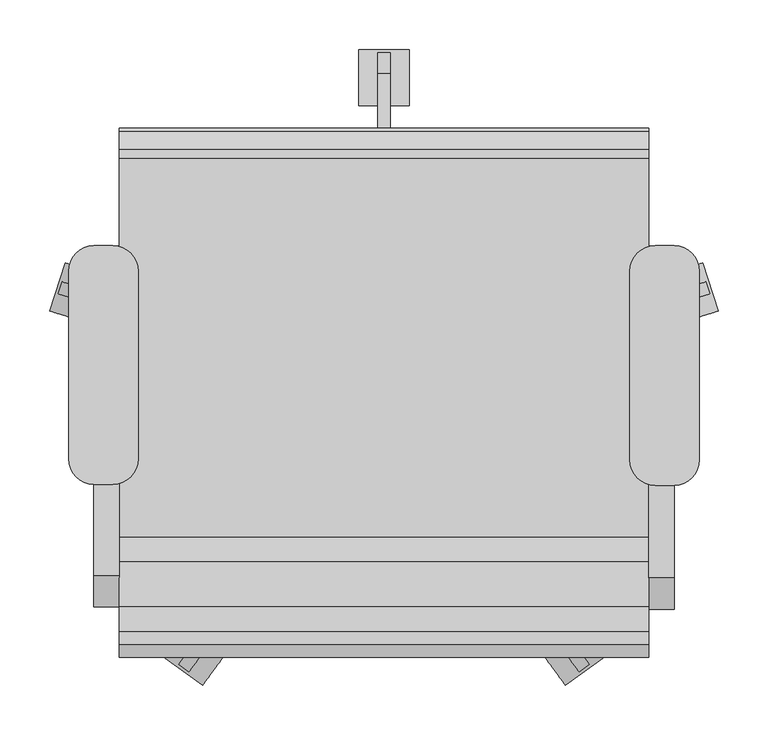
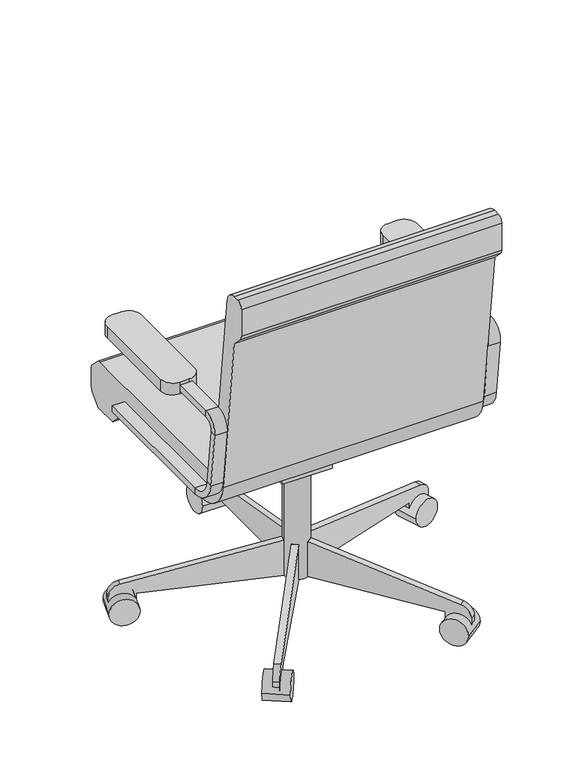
"""IFC4 building model written with IfcOpenShell, lengths in millimetres: furniture geometry, Siège - 03 : Siège - 03."""

from ifc_helpers import new_model, si_unit, point, frame, frame_2d, origin, place, context, project, spatial, polyline, circle_curve, trimmed, segment, composite_curve, outline, extrude, source, transform, mapped, element, save
from ifc_brep_helpers import plane_surface, cylinder_surface, revolved_surface, advanced_brep


def furniture_d3363bb0(model_context):
    return source(origin(), model_context, "Body", "SolidModel", [
        extrude(outline(composite_curve([segment(polyline([(433.0908197, -74.2028048), (414.0408197, -74.2028048)]), True, "CONTINUOUS"), segment(trimmed(circle_curve(frame_2d((414.0408197, -48.8028048)), 25.4), [point((414.0408197, -74.2028048))], [point((388.6408197, -48.8028048))], False, "CARTESIAN"), True, "CONTINUOUS"), segment(polyline([(388.6408197, -48.8028048), (388.6408197, 141.6319091)]), True, "CONTINUOUS"), segment(trimmed(circle_curve(frame_2d((414.0408197, 141.6319091)), 25.4), [point((388.6408197, 141.6319091))], [point((414.0408197, 167.0319091))], False, "CARTESIAN"), True, "CONTINUOUS"), segment(polyline([(414.0408197, 167.0319091), (433.0908197, 167.0319091)]), True, "CONTINUOUS"), segment(trimmed(circle_curve(frame_2d((433.0908197, 141.6319091)), 25.4), [point((433.0908197, 167.0319091))], [point((458.4908197, 141.6319091))], False, "CARTESIAN"), True, "CONTINUOUS"), segment(polyline([(458.4908197, 141.6319091), (458.4908197, -48.8028048)]), True, "CONTINUOUS"), segment(trimmed(circle_curve(frame_2d((433.0908197, -48.8028048)), 25.4), [point((458.4908197, -48.8028048))], [point((433.0908197, -74.2028048))], False, "CARTESIAN"), True, "CONTINUOUS")], self_intersect=False)), frame((0.0, 0.0, 596.9), z_axis=(0.0, 0.0, 1.0), x_axis=(1.0, 0.0, 0.0)), (0.0, 0.0, 1.0), 25.4),
        extrude(outline(composite_curve([segment(polyline([(-132.0591803, -73.1575984), (-151.1091803, -73.1575984)]), True, "CONTINUOUS"), segment(trimmed(circle_curve(frame_2d((-151.1091803, -47.7575984)), 25.4), [point((-151.1091803, -73.1575984))], [point((-176.5091803, -47.7575984))], False, "CARTESIAN"), True, "CONTINUOUS"), segment(polyline([(-176.5091803, -47.7575984), (-176.5091803, 141.6319091)]), True, "CONTINUOUS"), segment(trimmed(circle_curve(frame_2d((-151.1091803, 141.6319091)), 25.4), [point((-176.5091803, 141.6319091))], [point((-151.1091803, 167.0319091))], False, "CARTESIAN"), True, "CONTINUOUS"), segment(polyline([(-151.1091803, 167.0319091), (-132.0591803, 167.0319091)]), True, "CONTINUOUS"), segment(trimmed(circle_curve(frame_2d((-132.0591803, 141.6319091)), 25.4), [point((-132.0591803, 167.0319091))], [point((-106.6591803, 141.6319091))], False, "CARTESIAN"), True, "CONTINUOUS"), segment(polyline([(-106.6591803, 141.6319091), (-106.6591803, -47.7575984)]), True, "CONTINUOUS"), segment(trimmed(circle_curve(frame_2d((-132.0591803, -47.7575984)), 25.4), [point((-106.6591803, -47.7575984))], [point((-132.0591803, -73.1575984))], False, "CARTESIAN"), True, "CONTINUOUS")], self_intersect=False)), frame((0.0, 0.0, 596.9), z_axis=(0.0, 0.0, 1.0), x_axis=(1.0, 0.0, 0.0)), (0.0, 0.0, 1.0), 25.4),
        advanced_brep(
        [(-151.1091803, 167.0319091, 412.75), (-151.1091803, 167.0319091, 425.45), (-125.7091803, 167.0319091, 425.45), (-125.7091803, 167.0319091, 412.75), (-151.1091803, -126.2388651, 412.75), (-151.1091803, -126.2388651, 425.45), (-125.7091803, -126.2388651, 425.45), (-125.7091803, -126.2388651, 412.75), (-151.1091803, -170.3844094, 464.7064065), (-151.1091803, -182.9974221, 463.2225227), (-125.7091803, -170.3844094, 464.7064065), (-125.7091803, -182.9974221, 463.2225227), (-151.1091803, -196.7936301, 580.4902904), (-151.1091803, -184.1806174, 581.9741742), (-125.7091803, -184.1806174, 581.9741742), (-125.7091803, -196.7936301, 580.4902904), (-151.1091803, -165.2610984, 603.25), (-151.1091803, -165.2610984, 615.95), (-125.7091803, -165.2610984, 603.25), (-125.7091803, -165.2610984, 615.95), (-151.1091803, 18.9459016, 615.95), (-125.7091803, 18.9459016, 615.95), (-125.7091803, 18.9459016, 603.25), (-151.1091803, 18.9459016, 603.25)],
        [
            (0, 1),
            (1, 2),
            (2, 3),
            (3, 0),
            (0, 4),
            (4, 5),
            (5, 1),
            (5, 6),
            (6, 2),
            (6, 7),
            (7, 3),
            (7, 4),
            (8, 5, circle_curve(frame((-151.1091803, -126.2388651, 469.9), z_axis=(1.0, 0.0, 0.0), x_axis=(0.0, 0.0, -1.0)), 44.45)),
            (4, 9, circle_curve(frame((-151.1091803, -126.2388651, 469.9), z_axis=(-1.0, 0.0, 0.0), x_axis=(0.0, 0.0, -1.0)), 57.15)),
            (9, 8),
            (10, 6, circle_curve(frame((-125.7091803, -126.2388651, 469.9), z_axis=(1.0, 0.0, 0.0), x_axis=(0.0, 0.0, -1.0)), 44.45)),
            (8, 10),
            (11, 7, circle_curve(frame((-125.7091803, -126.2388651, 469.9), z_axis=(1.0, 0.0, 0.0), x_axis=(0.0, 0.0, -1.0)), 57.15)),
            (10, 11),
            (11, 9),
            (9, 12),
            (12, 13),
            (13, 8),
            (13, 14),
            (14, 10),
            (14, 15),
            (15, 11),
            (15, 12),
            (16, 13, circle_curve(frame((-151.1091803, -165.2610984, 584.2), z_axis=(1.0, 0.0, 0.0), x_axis=(0.0, -0.9931506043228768, -0.11684124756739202)), 19.05)),
            (12, 17, circle_curve(frame((-151.1091803, -165.2610984, 584.2), z_axis=(-1.0, 0.0, 0.0), x_axis=(0.0, -0.9931506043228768, -0.11684124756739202)), 31.75)),
            (17, 16),
            (18, 14, circle_curve(frame((-125.7091803, -165.2610984, 584.2), z_axis=(1.0, 0.0, 0.0), x_axis=(0.0, -0.9931506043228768, -0.11684124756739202)), 19.05)),
            (16, 18),
            (19, 15, circle_curve(frame((-125.7091803, -165.2610984, 584.2), z_axis=(1.0, 0.0, 0.0), x_axis=(0.0, -0.9931506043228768, -0.11684124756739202)), 31.75)),
            (18, 19),
            (19, 17),
            (20, 21),
            (21, 22),
            (22, 23),
            (23, 20),
            (17, 20),
            (23, 16),
            (22, 18),
            (21, 19),
        ],
        [
            plane_surface(frame((-152.608212, 167.0319091, 419.1), z_axis=(0.0, 1.0, 0.0), x_axis=(0.0, 0.0, -1.0))),
            plane_surface(frame((-151.1091803, 167.0319091, 412.75), z_axis=(-1.0, 0.0, 0.0), x_axis=(0.0, -1.0, 0.0))),
            plane_surface(frame((-151.1091803, 167.0319091, 425.45), z_axis=(0.0, 0.0, 1.0), x_axis=(0.0, -1.0, 0.0))),
            plane_surface(frame((-125.7091803, 167.0319091, 425.45), z_axis=(1.0, 0.0, 0.0), x_axis=(0.0, -1.0, 0.0))),
            plane_surface(frame((-125.7091803, 167.0319091, 412.75), z_axis=(0.0, 0.0, -1.0), x_axis=(0.0, -1.0, 0.0))),
            plane_surface(frame((-151.1091803, -126.2388651, 469.9), z_axis=(-1.0, 0.0, 0.0), x_axis=(0.0, 0.0, -1.0))),
            revolved_surface(polyline([(-151.1091803, -126.2388651, 425.45), (-125.7091803, -126.2388651, 425.45)]), (-138.4091803, -126.2388651, 469.9), (-1.0, 0.0, 0.0)),
            plane_surface(frame((-125.7091803, -126.2388651, 469.9), z_axis=(1.0, 0.0, 0.0), x_axis=(0.0, 0.0, -1.0))),
            cylinder_surface(frame((-138.4091803, -126.2388651, 469.9), z_axis=(-1.0, 0.0, 0.0), x_axis=(0.0, 0.0, -1.0)), 57.15),
            plane_surface(frame((-151.1091803, -182.9974221, 463.2225227), z_axis=(-1.0, 0.0, 0.0), x_axis=(0.0, -0.1168412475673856, 0.9931506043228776))),
            plane_surface(frame((-151.1091803, -170.3844094, 464.7064065), z_axis=(0.0, 0.9931506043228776, 0.1168412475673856), x_axis=(0.0, -0.1168412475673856, 0.9931506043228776))),
            plane_surface(frame((-125.7091803, -170.3844094, 464.7064065), z_axis=(1.0, 0.0, 0.0), x_axis=(0.0, -0.1168412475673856, 0.9931506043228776))),
            plane_surface(frame((-125.7091803, -182.9974221, 463.2225227), z_axis=(0.0, -0.9931506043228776, -0.1168412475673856), x_axis=(0.0, -0.1168412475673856, 0.9931506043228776))),
            plane_surface(frame((-151.1091803, -165.2610984, 584.2), z_axis=(-1.0, 0.0, 0.0), x_axis=(0.0, -0.9931506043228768, -0.11684124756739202))),
            revolved_surface(polyline([(-151.1091803, -184.1806174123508, 581.9741742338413), (-125.7091803, -184.1806174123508, 581.9741742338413)]), (-138.4091803, -165.2610984, 584.2), (-1.0, 0.0, 0.0)),
            plane_surface(frame((-125.7091803, -165.2610984, 584.2), z_axis=(1.0, 0.0, 0.0), x_axis=(0.0, -0.9931506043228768, -0.11684124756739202))),
            cylinder_surface(frame((-138.4091803, -165.2610984, 584.2), z_axis=(-1.0, 0.0, 0.0), x_axis=(0.0, -0.9931506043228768, -0.11684124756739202)), 31.75),
            plane_surface(frame((-152.608212, 18.9459016, 609.6), z_axis=(0.0, 1.0, 0.0), x_axis=(0.0, 0.0, 1.0))),
            plane_surface(frame((-151.1091803, -165.2610984, 615.95), z_axis=(-1.0, 0.0, 0.0), x_axis=(0.0, 1.0, 0.0))),
            plane_surface(frame((-151.1091803, -165.2610984, 603.25), z_axis=(0.0, 0.0, -1.0), x_axis=(0.0, 1.0, 0.0))),
            plane_surface(frame((-125.7091803, -165.2610984, 603.25), z_axis=(1.0, 0.0, 0.0), x_axis=(0.0, 1.0, 0.0))),
            plane_surface(frame((-125.7091803, -165.2610984, 615.95), z_axis=(0.0, 0.0, 1.0), x_axis=(0.0, 1.0, 0.0))),
        ],
        [
            (0, [[1, 2, 3, 4]]),
            (1, [[-1, 5, 6, 7]]),
            (2, [[-2, -7, 8, 9]]),
            (3, [[-3, -9, 10, 11]]),
            (4, [[-4, -11, 12, -5]]),
            (5, [[13, -6, 14, 15]]),
            (6, [[16, -8, -13, 17]]),
            (7, [[18, -10, -16, 19]]),
            (8, [[-14, -12, -18, 20]]),
            (9, [[-15, 21, 22, 23]]),
            (10, [[-17, -23, 24, 25]]),
            (11, [[-19, -25, 26, 27]]),
            (12, [[-20, -27, 28, -21]]),
            (13, [[29, -22, 30, 31]]),
            (14, [[32, -24, -29, 33]]),
            (15, [[34, -26, -32, 35]]),
            (16, [[-30, -28, -34, 36]]),
            (17, [[37, 38, 39, 40]]),
            (18, [[-31, 41, -40, 42]]),
            (19, [[-33, -42, -39, 43]]),
            (20, [[-35, -43, -38, 44]]),
            (21, [[-36, -44, -37, -41]]),
        ],
    ),
        advanced_brep(
        [(433.0908197, 167.0319091, 425.45), (433.0908197, 167.0319091, 412.75), (407.6908197, 167.0319091, 412.75), (407.6908197, 167.0319091, 425.45), (433.0908197, -128.329278, 425.45), (433.0908197, -128.329278, 412.75), (407.6908197, -128.329278, 412.75), (407.6908197, -128.329278, 425.45), (433.0908197, -185.0878351, 463.2225227), (433.0908197, -172.4748224, 464.7064065), (407.6908197, -185.0878351, 463.2225227), (407.6908197, -172.4748224, 464.7064065), (433.0908197, -186.2710303, 581.9741742), (433.0908197, -198.884043, 580.4902904), (407.6908197, -198.884043, 580.4902904), (407.6908197, -186.2710303, 581.9741742), (433.0908197, -167.3515113, 615.95), (433.0908197, -167.3515113, 603.25), (407.6908197, -167.3515113, 615.95), (407.6908197, -167.3515113, 603.25), (433.0908197, 18.9459016, 603.25), (407.6908197, 18.9459016, 603.25), (407.6908197, 18.9459016, 615.95), (433.0908197, 18.9459016, 615.95)],
        [
            (0, 1),
            (1, 2),
            (2, 3),
            (3, 0),
            (0, 4),
            (4, 5),
            (5, 1),
            (5, 6),
            (6, 2),
            (6, 7),
            (7, 3),
            (7, 4),
            (8, 5, circle_curve(frame((433.0908197, -128.329278, 469.9), z_axis=(1.0, 0.0, 0.0), x_axis=(0.0, 0.0, -1.0)), 57.15)),
            (4, 9, circle_curve(frame((433.0908197, -128.329278, 469.9), z_axis=(-1.0, 0.0, 0.0), x_axis=(0.0, 0.0, -1.0)), 44.45)),
            (9, 8),
            (10, 6, circle_curve(frame((407.6908197, -128.329278, 469.9), z_axis=(1.0, 0.0, 0.0), x_axis=(0.0, 0.0, -1.0)), 57.15)),
            (8, 10),
            (11, 7, circle_curve(frame((407.6908197, -128.329278, 469.9), z_axis=(1.0, 0.0, 0.0), x_axis=(0.0, 0.0, -1.0)), 44.45)),
            (10, 11),
            (11, 9),
            (9, 12),
            (12, 13),
            (13, 8),
            (13, 14),
            (14, 10),
            (14, 15),
            (15, 11),
            (15, 12),
            (16, 13, circle_curve(frame((433.0908197, -167.3515113, 584.2), z_axis=(1.0, 0.0, 0.0), x_axis=(0.0, -0.9931506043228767, -0.1168412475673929)), 31.75)),
            (12, 17, circle_curve(frame((433.0908197, -167.3515113, 584.2), z_axis=(-1.0, 0.0, 0.0), x_axis=(0.0, -0.9931506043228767, -0.1168412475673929)), 19.05)),
            (17, 16),
            (18, 14, circle_curve(frame((407.6908197, -167.3515113, 584.2), z_axis=(1.0, 0.0, 0.0), x_axis=(0.0, -0.9931506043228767, -0.1168412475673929)), 31.75)),
            (16, 18),
            (19, 15, circle_curve(frame((407.6908197, -167.3515113, 584.2), z_axis=(1.0, 0.0, 0.0), x_axis=(0.0, -0.9931506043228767, -0.1168412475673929)), 19.05)),
            (18, 19),
            (19, 17),
            (20, 21),
            (21, 22),
            (22, 23),
            (23, 20),
            (17, 20),
            (23, 16),
            (22, 18),
            (21, 19),
        ],
        [
            plane_surface(frame((406.191788, 167.0319091, 419.1), z_axis=(0.0, 1.0, 0.0), x_axis=(0.0, 0.0, -1.0))),
            plane_surface(frame((433.0908197, 167.0319091, 425.45), z_axis=(1.0, 0.0, 0.0), x_axis=(0.0, -1.0, 0.0))),
            plane_surface(frame((433.0908197, 167.0319091, 412.75), z_axis=(0.0, 0.0, -1.0), x_axis=(0.0, -1.0, 0.0))),
            plane_surface(frame((407.6908197, 167.0319091, 412.75), z_axis=(-1.0, 0.0, 0.0), x_axis=(0.0, -1.0, 0.0))),
            plane_surface(frame((407.6908197, 167.0319091, 425.45), z_axis=(0.0, 0.0, 1.0), x_axis=(0.0, -1.0, 0.0))),
            plane_surface(frame((433.0908197, -128.329278, 469.9), z_axis=(1.0, 0.0, 0.0), x_axis=(0.0, 0.0, -1.0))),
            cylinder_surface(frame((420.3908197, -128.329278, 469.9), z_axis=(-1.0, 0.0, 0.0), x_axis=(0.0, 0.0, -1.0)), 57.15),
            plane_surface(frame((407.6908197, -128.329278, 469.9), z_axis=(-1.0, 0.0, 0.0), x_axis=(0.0, 0.0, -1.0))),
            revolved_surface(polyline([(407.6908197, -128.329278, 425.45), (433.0908197, -128.329278, 425.45)]), (420.3908197, -128.329278, 469.9), (-1.0, 0.0, 0.0)),
            plane_surface(frame((433.0908197, -172.4748224, 464.7064065), z_axis=(1.0, 0.0, 0.0), x_axis=(0.0, -0.11684124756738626, 0.9931506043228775))),
            plane_surface(frame((433.0908197, -185.0878351, 463.2225227), z_axis=(0.0, -0.9931506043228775, -0.11684124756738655), x_axis=(0.0, -0.11684124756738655, 0.9931506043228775))),
            plane_surface(frame((407.6908197, -185.0878351, 463.2225227), z_axis=(-1.0, 0.0, 0.0), x_axis=(0.0, -0.11684124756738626, 0.9931506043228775))),
            plane_surface(frame((407.6908197, -172.4748224, 464.7064065), z_axis=(0.0, 0.9931506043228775, 0.11684124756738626), x_axis=(0.0, -0.11684124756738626, 0.9931506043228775))),
            plane_surface(frame((433.0908197, -167.3515113, 584.2), z_axis=(1.0, 0.0, 0.0), x_axis=(0.0, -0.9931506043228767, -0.1168412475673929))),
            cylinder_surface(frame((420.3908197, -167.3515113, 584.2), z_axis=(-1.0, 0.0, 0.0), x_axis=(0.0, -0.9931506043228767, -0.1168412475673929)), 31.75),
            plane_surface(frame((407.6908197, -167.3515113, 584.2), z_axis=(-1.0, 0.0, 0.0), x_axis=(0.0, -0.9931506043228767, -0.1168412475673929))),
            revolved_surface(polyline([(407.6908197, -186.2710303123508, 581.9741742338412), (433.0908197, -186.2710303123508, 581.9741742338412)]), (420.3908197, -167.3515113, 584.2), (-1.0, 0.0, 0.0)),
            plane_surface(frame((406.191788, 18.9459016, 609.6), z_axis=(0.0, 1.0, 0.0), x_axis=(0.0, 0.0, 1.0))),
            plane_surface(frame((433.0908197, -167.3515113, 603.25), z_axis=(1.0, 0.0, 0.0), x_axis=(0.0, 1.0, 0.0))),
            plane_surface(frame((433.0908197, -167.3515113, 615.95), z_axis=(0.0, 0.0, 1.0), x_axis=(0.0, 1.0, 0.0))),
            plane_surface(frame((407.6908197, -167.3515113, 615.95), z_axis=(-1.0, 0.0, 0.0), x_axis=(0.0, 1.0, 0.0))),
            plane_surface(frame((407.6908197, -167.3515113, 603.25), z_axis=(0.0, 0.0, -1.0), x_axis=(0.0, 1.0, 0.0))),
        ],
        [
            (0, [[1, 2, 3, 4]]),
            (1, [[-1, 5, 6, 7]]),
            (2, [[-2, -7, 8, 9]]),
            (3, [[-3, -9, 10, 11]]),
            (4, [[-4, -11, 12, -5]]),
            (5, [[13, -6, 14, 15]]),
            (6, [[16, -8, -13, 17]]),
            (7, [[18, -10, -16, 19]]),
            (8, [[-14, -12, -18, 20]]),
            (9, [[-15, 21, 22, 23]]),
            (10, [[-17, -23, 24, 25]]),
            (11, [[-19, -25, 26, 27]]),
            (12, [[-20, -27, 28, -21]]),
            (13, [[29, -22, 30, 31]]),
            (14, [[32, -24, -29, 33]]),
            (15, [[34, -26, -32, 35]]),
            (16, [[-30, -28, -34, 36]]),
            (17, [[37, 38, 39, 40]]),
            (18, [[-31, 41, -40, 42]]),
            (19, [[-33, -42, -39, 43]]),
            (20, [[-35, -43, -38, 44]]),
            (21, [[-36, -44, -37, -41]]),
        ],
    ),
        extrude(outline(composite_curve([segment(trimmed(circle_curve(frame_2d((0.0, -28.2002727)), 28.2002727), [point((0.0, -56.4005455))], [point((0.0, 0.0))], False, "CARTESIAN"), True, "CONTINUOUS"), segment(trimmed(circle_curve(frame_2d((0.0, -28.2002727)), 28.2002727), [point((0.0, 0.0))], [point((0.0, -56.4005455))], False, "CARTESIAN"), True, "CONTINUOUS")], self_intersect=False)), frame((477.6203484, 101.6163254, 28.1835944), z_axis=(-0.3090169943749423, 0.9510565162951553, 0.0), x_axis=(0.0, 0.0, 1.0)), (0.0, 0.0, 1.0), 50.8),
        extrude(outline(composite_curve([segment(polyline([(-25.4, 0.0), (0.0, 0.0), (0.0, -50.8), (-24.303053, -50.8)]), True, "CONTINUOUS"), segment(trimmed(circle_curve(frame_2d((-24.303053, -25.4)), 25.4), [point((-24.303053, -50.8))], [point((-49.3171699, -29.8106637))], False, "CARTESIAN"), True, "CONTINUOUS"), segment(polyline([(-49.3171699, -29.8106637), (-101.6, 266.7), (-101.6, 292.1), (-25.4, 292.1), (-25.4, 0.0)]), True, "CONTINUOUS")], self_intersect=False)), frame((420.756686, 103.1705568, 28.1835944), z_axis=(-0.3090169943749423, 0.9510565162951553, 0.0), x_axis=(0.0, 0.0, -1.0)), (0.0, 0.0, 1.0), 12.7),
        extrude(outline(composite_curve([segment(trimmed(circle_curve(frame_2d((0.0, -28.2002727)), 28.2002727), [point((0.0, -56.4005455))], [point((0.0, 0.0))], False, "CARTESIAN"), True, "CONTINUOUS"), segment(trimmed(circle_curve(frame_2d((0.0, -28.2002727)), 28.2002727), [point((0.0, 0.0))], [point((0.0, -56.4005455))], False, "CARTESIAN"), True, "CONTINUOUS")], self_intersect=False)), frame((323.63931, -275.6612394, 28.1835944), z_axis=(0.8090169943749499, 0.5877852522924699, 0.0), x_axis=(0.0, 0.0, 1.0)), (0.0, 0.0, 1.0), 50.8),
        extrude(outline(composite_curve([segment(polyline([(-25.4, 0.0), (0.0, 0.0), (0.0, -50.8), (-24.303053, -50.8)]), True, "CONTINUOUS"), segment(trimmed(circle_curve(frame_2d((-24.303053, -25.3999999)), 25.4), [point((-24.303053, -50.8))], [point((-49.3171699, -29.8106636))], False, "CARTESIAN"), True, "CONTINUOUS"), segment(polyline([(-49.3171699, -29.8106636), (-101.6, 266.7), (-101.6, 292.1), (-25.4, 292.1), (-25.4, 0.0)]), True, "CONTINUOUS")], self_intersect=False)), frame((307.545634, -221.1003988, 28.1835944), z_axis=(0.8090169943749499, 0.5877852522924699, 0.0), x_axis=(0.0, 0.0, -1.0)), (0.0, 0.0, 1.0), 12.7),
        extrude(outline(composite_curve([segment(trimmed(circle_curve(frame_2d((0.0, -28.2002727)), 28.2002727), [point((0.0, -56.4005455))], [point((0.0, 0.0))], False, "CARTESIAN"), True, "CONTINUOUS"), segment(trimmed(circle_curve(frame_2d((0.0, -28.2002727)), 28.2002727), [point((0.0, 0.0))], [point((0.0, -56.4005455))], False, "CARTESIAN"), True, "CONTINUOUS")], self_intersect=False)), frame((-41.6576707, -275.6612394, 28.1835944), z_axis=(-0.8090169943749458, 0.5877852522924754, 0.0), x_axis=(0.0, 0.0, -1.0)), (0.0, 0.0, 1.0), 50.8),
        extrude(outline(composite_curve([segment(polyline([(25.4, 0.0), (25.4, 292.1), (101.6, 292.1), (101.6, 266.7), (49.3171699, -29.8106637)]), True, "CONTINUOUS"), segment(trimmed(circle_curve(frame_2d((24.303053, -25.3999999)), 25.4), [point((49.3171699, -29.8106637))], [point((24.303053, -50.8))], False, "CARTESIAN"), True, "CONTINUOUS"), segment(polyline([(24.303053, -50.8), (0.0, -50.8), (0.0, 0.0), (25.4, 0.0)]), True, "CONTINUOUS")], self_intersect=False)), frame((-25.5639946, -221.1003988, 28.1835944), z_axis=(-0.8090169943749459, 0.5877852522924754, 0.0), x_axis=(0.0, 0.0, 1.0)), (0.0, 0.0, 1.0), 12.7),
        extrude(outline(composite_curve([segment(trimmed(circle_curve(frame_2d((0.0, -28.2002727)), 28.2002727), [point((0.0, -56.4005454))], [point((0.0, 0.0))], False, "CARTESIAN"), True, "CONTINUOUS"), segment(trimmed(circle_curve(frame_2d((0.0, -28.2002727)), 28.2002727), [point((0.0, 0.0))], [point((0.0, -56.4005454))], False, "CARTESIAN"), True, "CONTINUOUS")], self_intersect=False)), frame((-195.638709, 101.6163254, 28.1835944), z_axis=(0.3090169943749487, 0.9510565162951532, 0.0), x_axis=(0.0, 0.0, -1.0)), (0.0, 0.0, 1.0), 50.8),
        extrude(outline(composite_curve([segment(polyline([(25.4, 0.0), (25.4, 292.1000001), (101.6, 292.1000001), (101.6, 266.7), (49.3171699, -29.8106636)]), True, "CONTINUOUS"), segment(trimmed(circle_curve(frame_2d((24.303053, -25.4)), 25.4), [point((49.3171699, -29.8106636))], [point((24.303053, -50.8))], False, "CARTESIAN"), True, "CONTINUOUS"), segment(polyline([(24.303053, -50.8), (0.0, -50.8), (0.0, 0.0), (25.4, 0.0)]), True, "CONTINUOUS")], self_intersect=False)), frame((-138.7750467, 103.1705568, 28.1835944), z_axis=(0.3090169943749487, 0.9510565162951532, 0.0), x_axis=(0.0, 0.0, 1.0)), (0.0, 0.0, 1.0), 12.7),
        extrude(outline(composite_curve([segment(trimmed(circle_curve(frame_2d((336.4459016, 28.1835944)), 28.2002727), [point((308.2456289, 28.1835944))], [point((364.6461744, 28.1835944))], False, "CARTESIAN"), True, "CONTINUOUS"), segment(trimmed(circle_curve(frame_2d((336.4459016, 28.1835944)), 28.2002727), [point((364.6461744, 28.1835944))], [point((308.2456289, 28.1835944))], False, "CARTESIAN"), True, "CONTINUOUS")], self_intersect=False)), frame((115.5908197, 0.0, 0.0), z_axis=(1.0, 0.0, 0.0), x_axis=(0.0, 1.0, 0.0)), (0.0, 0.0, 1.0), 50.8),
        extrude(outline(composite_curve([segment(polyline([(311.0459016, 53.5835944), (18.9459016, 53.5835944), (18.9459016, 129.7835944), (44.3459016, 129.7835944), (340.8565654, 77.5007643)]), True, "CONTINUOUS"), segment(trimmed(circle_curve(frame_2d((336.4459016, 52.4866474)), 25.4), [point((340.8565654, 77.5007643))], [point((361.8459016, 52.4866474))], False, "CARTESIAN"), True, "CONTINUOUS"), segment(polyline([(361.8459016, 52.4866474), (361.8459016, 28.1835944), (311.0459016, 28.1835944), (311.0459016, 53.5835944)]), True, "CONTINUOUS")], self_intersect=False)), frame((134.6408197, 0.0, 0.0), z_axis=(1.0, 0.0, 0.0), x_axis=(0.0, 1.0, 0.0)), (0.0, 0.0, 1.0), 12.7),
        extrude(outline(composite_curve([segment(polyline([(-126.2050455, 457.2), (255.0102301, 457.2)]), True, "CONTINUOUS"), segment(trimmed(circle_curve(frame_2d((255.0102301, 444.5)), 12.7), [point((255.0102301, 457.2))], [point((263.9604301, 453.510212))], False, "CARTESIAN"), True, "CONTINUOUS"), segment(polyline([(263.9604301, 453.510212), (281.8961016, 435.6939999)]), True, "CONTINUOUS"), segment(trimmed(circle_curve(frame_2d((272.9459016, 426.6837879)), 12.7), [point((281.8961016, 435.6939999))], [point((285.6459016, 426.6837879))], False, "CARTESIAN"), True, "CONTINUOUS"), segment(polyline([(285.6459016, 426.6837879), (285.6459016, 391.6405184)]), True, "CONTINUOUS"), segment(trimmed(circle_curve(frame_2d((260.2459016, 391.6405184)), 25.4), [point((285.6459016, 391.6405184))], [point((278.2663256, 373.7401184))], False, "CARTESIAN"), True, "CONTINUOUS"), segment(polyline([(278.2663256, 373.7401184), (260.2470284, 355.6), (209.4470284, 355.6), (181.0744602, 383.7835944), (-107.1089978, 383.7835944)]), True, "CONTINUOUS"), segment(trimmed(circle_curve(frame_2d((-107.1089978, 459.9835944)), 76.2), [point((-107.1089978, 383.7835944))], [point((-182.7870738, 451.0802913))], False, "CARTESIAN"), True, "CONTINUOUS"), segment(polyline([(-182.7870738, 451.0802913), (-222.3540984, 787.4), (-244.0343545, 809.0802561)]), True, "CONTINUOUS"), segment(trimmed(circle_curve(frame_2d((-235.0540984, 818.0605122)), 12.7), [point((-244.0343545, 809.0802561))], [point((-247.7540984, 818.0605122))], False, "CARTESIAN"), True, "CONTINUOUS"), segment(polyline([(-247.7540984, 818.0605122), (-247.7540984, 876.3)]), True, "CONTINUOUS"), segment(trimmed(circle_curve(frame_2d((-235.0540984, 876.3)), 12.7), [point((-247.7540984, 876.3))], [point((-235.0540984, 889.0))], False, "CARTESIAN"), True, "CONTINUOUS"), segment(polyline([(-235.0540984, 889.0), (-222.1789239, 889.0)]), True, "CONTINUOUS"), segment(trimmed(circle_curve(frame_2d((-222.1789239, 863.6)), 25.4), [point((-222.1789239, 889.0))], [point((-196.9528985, 866.5677677))], False, "CARTESIAN"), True, "CONTINUOUS"), segment(polyline([(-196.9528985, 866.5677677), (-151.4310708, 479.6322323)]), True, "CONTINUOUS"), segment(trimmed(circle_curve(frame_2d((-126.2050455, 482.6)), 25.4), [point((-151.4310708, 479.6322323))], [point((-126.2050455, 457.2))], True, "CARTESIAN"), True, "CONTINUOUS")], self_intersect=False)), frame((-125.7091803, 0.0, 0.0), z_axis=(1.0, 0.0, 0.0), x_axis=(0.0, 1.0, 0.0)), (0.0, 0.0, 1.0), 533.4),
        extrude(outline(composite_curve([segment(trimmed(circle_curve(frame_2d((140.9908197, 18.9459016)), 25.4), [point((115.5908197, 18.9459016))], [point((166.3908197, 18.9459016))], False, "CARTESIAN"), True, "CONTINUOUS"), segment(trimmed(circle_curve(frame_2d((140.9908197, 18.9459016)), 25.4), [point((166.3908197, 18.9459016))], [point((115.5908197, 18.9459016))], False, "CARTESIAN"), True, "CONTINUOUS")], self_intersect=False)), frame((0.0, 0.0, 53.5835944), z_axis=(0.0, 0.0, 1.0), x_axis=(1.0, 0.0, 0.0)), (0.0, 0.0, 1.0), 330.5914056),
        extrude(outline(polyline([(69.7459016, 383.7835944), (69.7459016, 371.0835944), (18.9459016, 283.0954134), (-19.1540984, 283.0954134), (-19.1540984, 383.7835944), (69.7459016, 383.7835944)])), frame((90.1908197, 0.0, 0.0), z_axis=(1.0, 0.0, 0.0), x_axis=(0.0, 1.0, 0.0)), (0.0, 0.0, 1.0), 101.6),
    ])


if __name__ == "__main__":
    model = new_model("IFC4")
    model_context = context("Model", 3, world=origin())
    ifc_project = project(units=[si_unit("LENGTHUNIT", "METRE", prefix="MILLI")], contexts=[model_context])
    site = spatial("IfcSite", under=ifc_project)
    building = spatial("IfcBuilding", under=site)
    placement = place(None, origin())
    furniture_shape = furniture_d3363bb0(model_context)
    element("IfcFurniture", 1, ObjectType="Siège - 03 : Siège - 03", at=placement, inside=building, context=model_context, shape_type="MappedRepresentation", body=[
        mapped(furniture_shape, transform((0.0, 0.0, 0.0), x_axis=(1.0, 0.0, 0.0), y_axis=(0.0, 1.0, 0.0), z_axis=(0.0, 0.0, 1.0))),
    ])
    save(model, "model.ifc")
